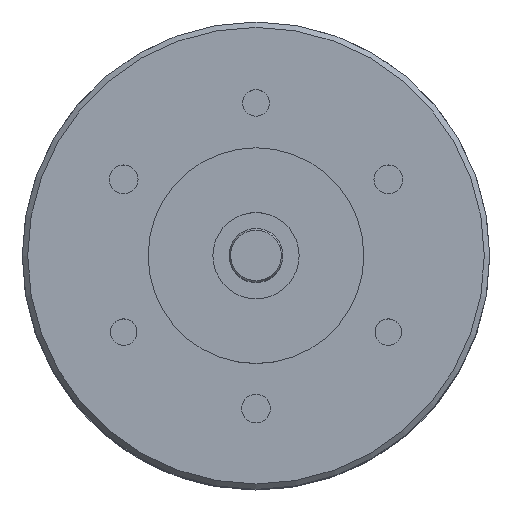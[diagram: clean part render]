
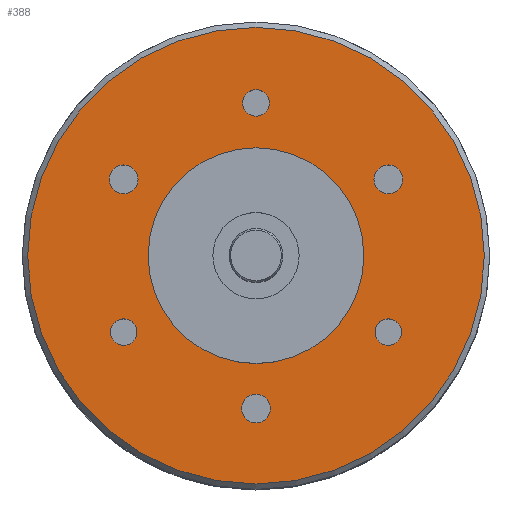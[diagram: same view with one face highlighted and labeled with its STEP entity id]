
A CAD part, top view. The second image highlights one B-rep face of the part: STEP entity #388.
In plain terms, the highlighted planar face has unit normal (0, 0, 1).
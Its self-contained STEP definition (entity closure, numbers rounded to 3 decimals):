
#129=FACE_BOUND('',#711,.T.);
#130=FACE_BOUND('',#712,.T.);
#131=FACE_BOUND('',#713,.T.);
#132=FACE_BOUND('',#714,.T.);
#133=FACE_BOUND('',#715,.T.);
#134=FACE_BOUND('',#716,.T.);
#135=FACE_BOUND('',#717,.T.);
#136=FACE_BOUND('',#718,.T.);
#273=CIRCLE('',#2478,12.7);
#274=CIRCLE('',#2479,0.8);
#275=CIRCLE('',#2480,0.8);
#276=CIRCLE('',#2481,0.8);
#277=CIRCLE('',#2482,0.74);
#278=CIRCLE('',#2483,0.74);
#279=CIRCLE('',#2484,0.74);
#280=CIRCLE('',#2485,6.);
#388=ADVANCED_FACE('',(#129,#130,#131,#132,#133,#134,#135,#136),#525,.T.);
#525=PLANE('',#2486);
#711=EDGE_LOOP('',(#1063));
#712=EDGE_LOOP('',(#1064));
#713=EDGE_LOOP('',(#1065));
#714=EDGE_LOOP('',(#1066));
#715=EDGE_LOOP('',(#1067));
#716=EDGE_LOOP('',(#1068));
#717=EDGE_LOOP('',(#1069));
#718=EDGE_LOOP('',(#1070));
#1063=ORIENTED_EDGE('',*,*,#1904,.T.);
#1064=ORIENTED_EDGE('',*,*,#1905,.T.);
#1065=ORIENTED_EDGE('',*,*,#1906,.T.);
#1066=ORIENTED_EDGE('',*,*,#1907,.T.);
#1067=ORIENTED_EDGE('',*,*,#1908,.T.);
#1068=ORIENTED_EDGE('',*,*,#1909,.T.);
#1069=ORIENTED_EDGE('',*,*,#1910,.T.);
#1070=ORIENTED_EDGE('',*,*,#1911,.F.);
#1651=VERTEX_POINT('',#3771);
#1652=VERTEX_POINT('',#3773);
#1653=VERTEX_POINT('',#3775);
#1654=VERTEX_POINT('',#3777);
#1655=VERTEX_POINT('',#3779);
#1656=VERTEX_POINT('',#3781);
#1657=VERTEX_POINT('',#3783);
#1658=VERTEX_POINT('',#3785);
#1904=EDGE_CURVE('',#1651,#1651,#273,.T.);
#1905=EDGE_CURVE('',#1652,#1652,#274,.T.);
#1906=EDGE_CURVE('',#1653,#1653,#275,.T.);
#1907=EDGE_CURVE('',#1654,#1654,#276,.T.);
#1908=EDGE_CURVE('',#1655,#1655,#277,.T.);
#1909=EDGE_CURVE('',#1656,#1656,#278,.T.);
#1910=EDGE_CURVE('',#1657,#1657,#279,.T.);
#1911=EDGE_CURVE('',#1658,#1658,#280,.T.);
#2478=AXIS2_PLACEMENT_3D('',#3770,#2967,#2968);
#2479=AXIS2_PLACEMENT_3D('',#3772,#2969,#2970);
#2480=AXIS2_PLACEMENT_3D('',#3774,#2971,#2972);
#2481=AXIS2_PLACEMENT_3D('',#3776,#2973,#2974);
#2482=AXIS2_PLACEMENT_3D('',#3778,#2975,#2976);
#2483=AXIS2_PLACEMENT_3D('',#3780,#2977,#2978);
#2484=AXIS2_PLACEMENT_3D('',#3782,#2979,#2980);
#2485=AXIS2_PLACEMENT_3D('',#3784,#2981,#2982);
#2486=AXIS2_PLACEMENT_3D('',#3786,#2983,#2984);
#2967=DIRECTION('',(0.,0.,1.));
#2968=DIRECTION('',(1.,0.,0.));
#2969=DIRECTION('',(0.,0.,-1.));
#2970=DIRECTION('',(-1.,0.,0.));
#2971=DIRECTION('',(0.,0.,-1.));
#2972=DIRECTION('',(-1.,0.,0.));
#2973=DIRECTION('',(0.,0.,-1.));
#2974=DIRECTION('',(-1.,0.,0.));
#2975=DIRECTION('',(0.,0.,-1.));
#2976=DIRECTION('',(-1.,0.,0.));
#2977=DIRECTION('',(0.,0.,-1.));
#2978=DIRECTION('',(-1.,0.,0.));
#2979=DIRECTION('',(0.,0.,-1.));
#2980=DIRECTION('',(-1.,0.,0.));
#2981=DIRECTION('',(0.,0.,1.));
#2982=DIRECTION('',(1.,0.,0.));
#2983=DIRECTION('',(0.,0.,1.));
#2984=DIRECTION('',(1.,0.,0.));
#3770=CARTESIAN_POINT('',(0.,0.,0.));
#3771=CARTESIAN_POINT('',(12.7,0.,0.));
#3772=CARTESIAN_POINT('',(7.361,4.25,0.));
#3773=CARTESIAN_POINT('',(6.561,4.25,0.));
#3774=CARTESIAN_POINT('',(0.,-8.5,0.));
#3775=CARTESIAN_POINT('',(-0.8,-8.5,0.));
#3776=CARTESIAN_POINT('',(-7.361,4.25,0.));
#3777=CARTESIAN_POINT('',(-8.161,4.25,0.));
#3778=CARTESIAN_POINT('',(7.361,-4.25,0.));
#3779=CARTESIAN_POINT('',(6.621,-4.25,0.));
#3780=CARTESIAN_POINT('',(-7.361,-4.25,0.));
#3781=CARTESIAN_POINT('',(-8.101,-4.25,0.));
#3782=CARTESIAN_POINT('',(0.,8.5,0.));
#3783=CARTESIAN_POINT('',(-0.74,8.5,0.));
#3784=CARTESIAN_POINT('',(0.,0.,0.));
#3785=CARTESIAN_POINT('',(6.,0.,0.));
#3786=CARTESIAN_POINT('',(0.,0.,0.));
